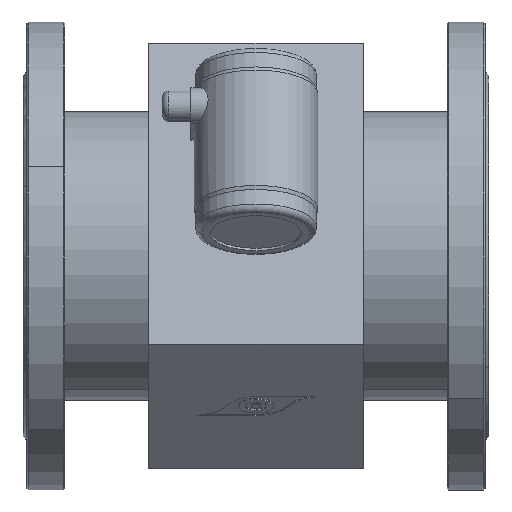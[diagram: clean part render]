
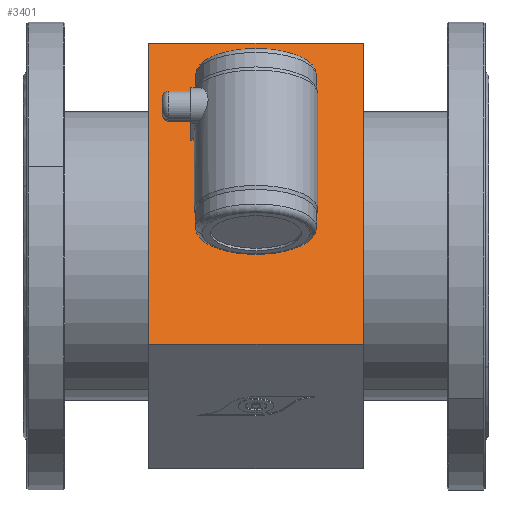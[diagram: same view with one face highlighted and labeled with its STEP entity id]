
A CAD part, front view. The second image highlights one B-rep face of the part: STEP entity #3401.
In plain terms, the highlighted planar face has unit normal (0, -0.924, 0.383) as drawn and (0, -1, 0) by its records, which use the part's own axes.
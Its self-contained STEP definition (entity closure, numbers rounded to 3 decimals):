
#115 = ORIENTED_EDGE ( 'NONE', *, *, #4736, .F. ) ;
#187 = EDGE_CURVE ( 'NONE', #204, #3039, #3680, .T. ) ;
#204 = VERTEX_POINT ( 'NONE', #3102 ) ;
#220 = EDGE_CURVE ( 'NONE', #204, #3368, #4236, .T. ) ;
#361 = EDGE_LOOP ( 'NONE', ( #2793, #746, #4238, #3458 ) ) ;
#746 = ORIENTED_EDGE ( 'NONE', *, *, #187, .F. ) ;
#849 = AXIS2_PLACEMENT_3D ( 'NONE', #4213, #1841, #4606 ) ;
#1075 = DIRECTION ( 'NONE',  ( 0., -1., 0. ) ) ;
#1088 = VERTEX_POINT ( 'NONE', #1876 ) ;
#1209 = VECTOR ( 'NONE', #2675, 1000. ) ;
#1731 = VERTEX_POINT ( 'NONE', #4187 ) ;
#1828 = AXIS2_PLACEMENT_3D ( 'NONE', #3437, #1075, #3850 ) ;
#1841 = DIRECTION ( 'NONE',  ( 0., -1., 0. ) ) ;
#1876 = CARTESIAN_POINT ( 'NONE',  ( 125., -125., -96.5 ) ) ;
#1969 = CIRCLE ( 'NONE', #1828, 30. ) ;
#2011 = VECTOR ( 'NONE', #3510, 1000. ) ;
#2039 = FACE_BOUND ( 'NONE', #3261, .T. ) ;
#2060 = CARTESIAN_POINT ( 'NONE',  ( 125., -125., -261.5 ) ) ;
#2071 = PLANE ( 'NONE',  #3794 ) ;
#2206 = VECTOR ( 'NONE', #4053, 1000. ) ;
#2309 = CARTESIAN_POINT ( 'NONE',  ( -125., -125., -261.5 ) ) ;
#2469 = DIRECTION ( 'NONE',  ( 0., 0., -1. ) ) ;
#2625 = ORIENTED_EDGE ( 'NONE', *, *, #3545, .F. ) ;
#2675 = DIRECTION ( 'NONE',  ( 0., 0., 1. ) ) ;
#2694 = CARTESIAN_POINT ( 'NONE',  ( -125., -125., -261.5 ) ) ;
#2780 = EDGE_CURVE ( 'NONE', #3368, #1088, #3383, .T. ) ;
#2793 = ORIENTED_EDGE ( 'NONE', *, *, #2867, .F. ) ;
#2838 = FACE_OUTER_BOUND ( 'NONE', #361, .T. ) ;
#2867 = EDGE_CURVE ( 'NONE', #3039, #1088, #4319, .T. ) ;
#3039 = VERTEX_POINT ( 'NONE', #4167 ) ;
#3102 = CARTESIAN_POINT ( 'NONE',  ( -125., -125., -261.5 ) ) ;
#3182 = CIRCLE ( 'NONE', #849, 30. ) ;
#3201 = VERTEX_POINT ( 'NONE', #5065 ) ;
#3261 = EDGE_LOOP ( 'NONE', ( #115, #2625 ) ) ;
#3368 = VERTEX_POINT ( 'NONE', #4347 ) ;
#3383 = LINE ( 'NONE', #2060, #4435 ) ;
#3401 = ADVANCED_FACE ( 'NONE', ( #2838, #2039 ), #2071, .T. ) ;
#3437 = CARTESIAN_POINT ( 'NONE',  ( 0., -125., -179. ) ) ;
#3458 = ORIENTED_EDGE ( 'NONE', *, *, #2780, .T. ) ;
#3510 = DIRECTION ( 'NONE',  ( 1., 0., 0. ) ) ;
#3545 = EDGE_CURVE ( 'NONE', #3201, #1731, #1969, .T. ) ;
#3652 = CARTESIAN_POINT ( 'NONE',  ( -125., -125., -261.5 ) ) ;
#3680 = LINE ( 'NONE', #2694, #1209 ) ;
#3794 = AXIS2_PLACEMENT_3D ( 'NONE', #3652, #4836, #2469 ) ;
#3850 = DIRECTION ( 'NONE',  ( 0., 0., -1. ) ) ;
#4053 = DIRECTION ( 'NONE',  ( 1., 0., 0. ) ) ;
#4070 = CARTESIAN_POINT ( 'NONE',  ( -125., -125., -96.5 ) ) ;
#4167 = CARTESIAN_POINT ( 'NONE',  ( -125., -125., -96.5 ) ) ;
#4187 = CARTESIAN_POINT ( 'NONE',  ( 0., -125., -149. ) ) ;
#4213 = CARTESIAN_POINT ( 'NONE',  ( 0., -125., -179. ) ) ;
#4236 = LINE ( 'NONE', #2309, #2011 ) ;
#4238 = ORIENTED_EDGE ( 'NONE', *, *, #220, .T. ) ;
#4319 = LINE ( 'NONE', #4070, #2206 ) ;
#4347 = CARTESIAN_POINT ( 'NONE',  ( 125., -125., -261.5 ) ) ;
#4435 = VECTOR ( 'NONE', #4829, 1000. ) ;
#4606 = DIRECTION ( 'NONE',  ( 0., 0., -1. ) ) ;
#4736 = EDGE_CURVE ( 'NONE', #1731, #3201, #3182, .T. ) ;
#4829 = DIRECTION ( 'NONE',  ( 0., 0., 1. ) ) ;
#4836 = DIRECTION ( 'NONE',  ( 0., -1., 0. ) ) ;
#5065 = CARTESIAN_POINT ( 'NONE',  ( 0., -125., -209. ) ) ;
